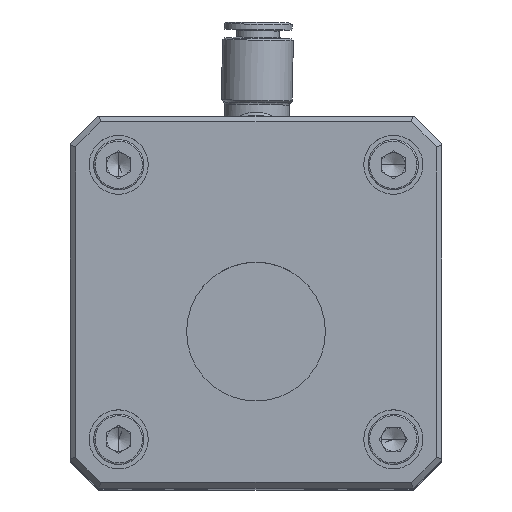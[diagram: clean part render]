
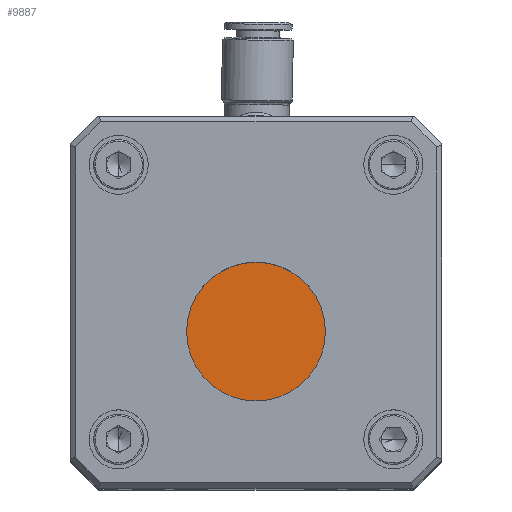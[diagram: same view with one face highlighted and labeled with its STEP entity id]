
A CAD part, top view. The second image highlights one B-rep face of the part: STEP entity #9887.
In plain terms, the highlighted planar face has unit normal (0, 0, 1).
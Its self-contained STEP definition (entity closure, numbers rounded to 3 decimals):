
#82 = EDGE_LOOP ( 'NONE', ( #14703, #14495 ) ) ;
#1878 = AXIS2_PLACEMENT_3D ( 'NONE', #28897, #17352, #6477 ) ;
#5433 = CARTESIAN_POINT ( 'NONE',  ( 0., -118., 90. ) ) ;
#5626 = DIRECTION ( 'NONE',  ( 1., 0., 0. ) ) ;
#6477 = DIRECTION ( 'NONE',  ( 1., 0., 0. ) ) ;
#6897 = CARTESIAN_POINT ( 'NONE',  ( -11.75, -118., 90. ) ) ;
#7538 = CARTESIAN_POINT ( 'NONE',  ( -30.4, -99.2, 90. ) ) ;
#9581 = DIRECTION ( 'NONE',  ( 0., 0., 1. ) ) ;
#9704 = DIRECTION ( 'NONE',  ( 0., 0., 1. ) ) ;
#9887 = ADVANCED_FACE ( 'NONE', ( #15146 ), #23013, .T. ) ;
#11846 = AXIS2_PLACEMENT_3D ( 'NONE', #5433, #9704, #5626 ) ;
#12252 = VERTEX_POINT ( 'NONE', #16543 ) ;
#13352 = CIRCLE ( 'NONE', #11846, 11.75 ) ;
#14495 = ORIENTED_EDGE ( 'NONE', *, *, #15793, .T. ) ;
#14703 = ORIENTED_EDGE ( 'NONE', *, *, #21069, .T. ) ;
#15146 = FACE_OUTER_BOUND ( 'NONE', #82, .T. ) ;
#15793 = EDGE_CURVE ( 'NONE', #26588, #12252, #27612, .T. ) ;
#16543 = CARTESIAN_POINT ( 'NONE',  ( 11.75, -118., 90. ) ) ;
#17352 = DIRECTION ( 'NONE',  ( 0., 0., 1. ) ) ;
#20161 = AXIS2_PLACEMENT_3D ( 'NONE', #7538, #9581, #23216 ) ;
#21069 = EDGE_CURVE ( 'NONE', #12252, #26588, #13352, .T. ) ;
#23013 = PLANE ( 'NONE',  #20161 ) ;
#23216 = DIRECTION ( 'NONE',  ( 1., 0., 0. ) ) ;
#26588 = VERTEX_POINT ( 'NONE', #6897 ) ;
#27612 = CIRCLE ( 'NONE', #1878, 11.75 ) ;
#28897 = CARTESIAN_POINT ( 'NONE',  ( 0., -118., 90. ) ) ;
